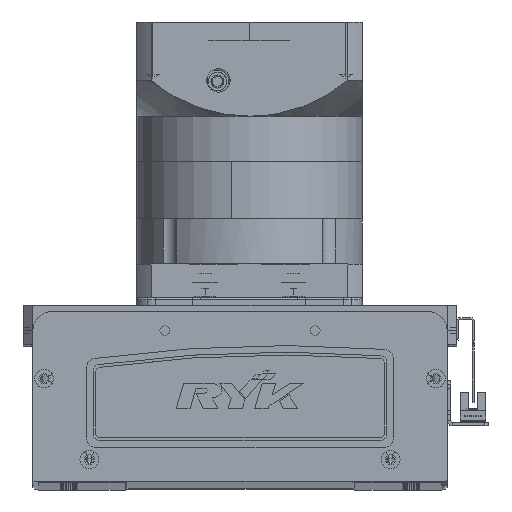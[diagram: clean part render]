
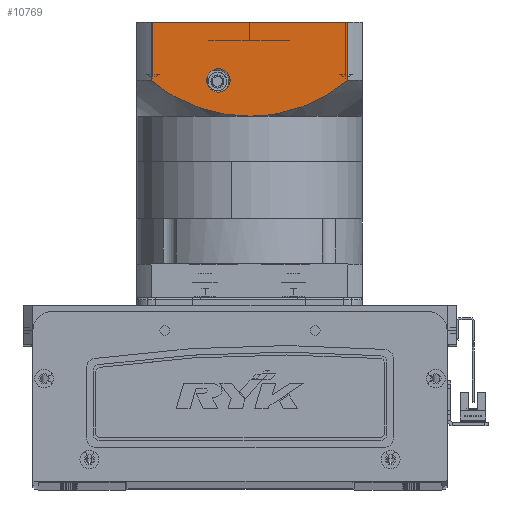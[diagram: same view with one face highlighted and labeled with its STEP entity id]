
A CAD part, top view. The second image highlights one B-rep face of the part: STEP entity #10769.
In plain terms, the highlighted planar face has unit normal (0, 0, 1) as drawn and (0, -1, 0) by its records, which use the part's own axes.
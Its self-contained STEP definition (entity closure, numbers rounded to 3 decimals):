
#17 = EDGE_CURVE ( 'NONE', #12357, #54299, #51968, .T. ) ;
#294 = ORIENTED_EDGE ( 'NONE', *, *, #46916, .F. ) ;
#421 = CARTESIAN_POINT ( 'NONE',  ( -12.993, -60., -101.537 ) ) ;
#785 = CIRCLE ( 'NONE', #42281, 6.25 ) ;
#1253 = AXIS2_PLACEMENT_3D ( 'NONE', #51382, #25063, #24604 ) ;
#2251 = VERTEX_POINT ( 'NONE', #33631 ) ;
#3969 = CARTESIAN_POINT ( 'NONE',  ( 45.542, -60., -114.478 ) ) ;
#4119 = ORIENTED_EDGE ( 'NONE', *, *, #17, .F. ) ;
#4832 = CARTESIAN_POINT ( 'NONE',  ( -52.156, -60., -150.5 ) ) ;
#5142 = CARTESIAN_POINT ( 'NONE',  ( 0., -60., -100.5 ) ) ;
#8553 = EDGE_CURVE ( 'NONE', #37522, #54299, #38407, .T. ) ;
#8769 = CARTESIAN_POINT ( 'NONE',  ( 16.5, -60., -119.5 ) ) ;
#9068 = CARTESIAN_POINT ( 'NONE',  ( 0., -60., -100.5 ) ) ;
#9106 = CIRCLE ( 'NONE', #48575, 6.25 ) ;
#9754 = CARTESIAN_POINT ( 'NONE',  ( 32.196, -60., -107.007 ) ) ;
#10769 = ADVANCED_FACE ( 'NONE', ( #44859, #16577 ), #30703, .T. ) ;
#10804 = ORIENTED_EDGE ( 'NONE', *, *, #18647, .T. ) ;
#11791 = CARTESIAN_POINT ( 'NONE',  ( -38.51, -60., -110.207 ) ) ;
#12357 = VERTEX_POINT ( 'NONE', #5142 ) ;
#13219 = ORIENTED_EDGE ( 'NONE', *, *, #18970, .T. ) ;
#13637 = DIRECTION ( 'NONE',  ( 0., 1., 0. ) ) ;
#13999 = CARTESIAN_POINT ( 'NONE',  ( 52.156, -60., -150.5 ) ) ;
#14232 = CARTESIAN_POINT ( 'NONE',  ( 50.338, -60., -117.969 ) ) ;
#14457 = CARTESIAN_POINT ( 'NONE',  ( 9.454, -60., -100.914 ) ) ;
#14670 = EDGE_LOOP ( 'NONE', ( #10804, #38594 ) ) ;
#15160 = CARTESIAN_POINT ( 'NONE',  ( 15.267, -60., -101.938 ) ) ;
#16577 = FACE_BOUND ( 'NONE', #14670, .T. ) ;
#16679 = CARTESIAN_POINT ( 'NONE',  ( -29.939, -60., -106.183 ) ) ;
#16916 = CARTESIAN_POINT ( 'NONE',  ( -39.546, -60., -110.776 ) ) ;
#18021 = DIRECTION ( 'NONE',  ( 0., 0., 1. ) ) ;
#18647 = EDGE_CURVE ( 'NONE', #19310, #2251, #785, .T. ) ;
#18970 = EDGE_CURVE ( 'NONE', #30641, #37522, #30756, .T. ) ;
#19310 = VERTEX_POINT ( 'NONE', #64520 ) ;
#19798 = CARTESIAN_POINT ( 'NONE',  ( 36.444, -60., -108.986 ) ) ;
#23198 = ORIENTED_EDGE ( 'NONE', *, *, #37019, .F. ) ;
#24364 = VECTOR ( 'NONE', #18021, 1000. ) ;
#24533 = EDGE_LOOP ( 'NONE', ( #23198, #13219, #40753, #4119, #294 ) ) ;
#24604 = DIRECTION ( 'NONE',  ( 1., 0., 0. ) ) ;
#25063 = DIRECTION ( 'NONE',  ( 0., -1., 0. ) ) ;
#25149 = CARTESIAN_POINT ( 'NONE',  ( 52.156, -60., -119.5 ) ) ;
#27271 = CARTESIAN_POINT ( 'NONE',  ( -52.156, -60., -119.5 ) ) ;
#27407 = CARTESIAN_POINT ( 'NONE',  ( -8.294, -60., -100.916 ) ) ;
#27662 = CARTESIAN_POINT ( 'NONE',  ( -2.376, -60., -100.5 ) ) ;
#27898 = CARTESIAN_POINT ( 'NONE',  ( -35.342, -60., -108.587 ) ) ;
#30239 = LINE ( 'NONE', #50578, #24364 ) ;
#30641 = VERTEX_POINT ( 'NONE', #4832 ) ;
#30703 = PLANE ( 'NONE',  #1253 ) ;
#30756 = LINE ( 'NONE', #44099, #47373 ) ;
#31263 = CARTESIAN_POINT ( 'NONE',  ( 18.739, -60., -102.681 ) ) ;
#31434 = CARTESIAN_POINT ( 'NONE',  ( -52.156, -60., -119.5 ) ) ;
#32318 = CARTESIAN_POINT ( 'NONE',  ( -23.319, -60., -103.777 ) ) ;
#33248 = CARTESIAN_POINT ( 'NONE',  ( 0., -60., -100.5 ) ) ;
#33631 = CARTESIAN_POINT ( 'NONE',  ( 16.5, -60., -113.25 ) ) ;
#35901 = CARTESIAN_POINT ( 'NONE',  ( 19.894, -60., -102.964 ) ) ;
#36129 = CARTESIAN_POINT ( 'NONE',  ( 25.577, -60., -104.596 ) ) ;
#36363 = CARTESIAN_POINT ( 'NONE',  ( 41.545, -60., -111.931 ) ) ;
#37019 = EDGE_CURVE ( 'NONE', #30641, #38735, #30239, .T. ) ;
#37028 = CARTESIAN_POINT ( 'NONE',  ( -48.52, -60., -116.438 ) ) ;
#37522 = VERTEX_POINT ( 'NONE', #39707 ) ;
#37710 = CARTESIAN_POINT ( 'NONE',  ( -36.409, -60., -109.113 ) ) ;
#38407 = LINE ( 'NONE', #13999, #41730 ) ;
#38594 = ORIENTED_EDGE ( 'NONE', *, *, #39513, .T. ) ;
#38735 = VERTEX_POINT ( 'NONE', #27271 ) ;
#39513 = EDGE_CURVE ( 'NONE', #2251, #19310, #9106, .T. ) ;
#39707 = CARTESIAN_POINT ( 'NONE',  ( 52.156, -60., -150.5 ) ) ;
#40753 = ORIENTED_EDGE ( 'NONE', *, *, #8553, .T. ) ;
#41708 = CARTESIAN_POINT ( 'NONE',  ( 23.329, -60., -103.886 ) ) ;
#41730 = VECTOR ( 'NONE', #51240, 1000. ) ;
#42281 = AXIS2_PLACEMENT_3D ( 'NONE', #8769, #67471, #46936 ) ;
#43459 = CARTESIAN_POINT ( 'NONE',  ( -32.118, -60., -107.084 ) ) ;
#43895 = CARTESIAN_POINT ( 'NONE',  ( -18.792, -60., -102.562 ) ) ;
#44099 = CARTESIAN_POINT ( 'NONE',  ( -60., -60., -150.5 ) ) ;
#44859 = FACE_OUTER_BOUND ( 'NONE', #24533, .T. ) ;
#45481 = CARTESIAN_POINT ( 'NONE',  ( 16.5, -60., -119.5 ) ) ;
#46066 = CARTESIAN_POINT ( 'NONE',  ( 48.457, -60., -116.522 ) ) ;
#46763 = CARTESIAN_POINT ( 'NONE',  ( 44.553, -60., -113.817 ) ) ;
#46916 = EDGE_CURVE ( 'NONE', #38735, #12357, #57332, .T. ) ;
#46936 = DIRECTION ( 'NONE',  ( 0., 0., -1. ) ) ;
#47373 = VECTOR ( 'NONE', #50141, 1000. ) ;
#48575 = AXIS2_PLACEMENT_3D ( 'NONE', #45481, #13637, #50871 ) ;
#48775 = CARTESIAN_POINT ( 'NONE',  ( -11.825, -60., -101.356 ) ) ;
#49004 = CARTESIAN_POINT ( 'NONE',  ( -4.747, -60., -100.604 ) ) ;
#50141 = DIRECTION ( 'NONE',  ( 1., 0., 0. ) ) ;
#50578 = CARTESIAN_POINT ( 'NONE',  ( -52.156, -60., -97.5 ) ) ;
#50871 = DIRECTION ( 'NONE',  ( 0., 0., -1. ) ) ;
#51240 = DIRECTION ( 'NONE',  ( 0., 0., 1. ) ) ;
#51382 = CARTESIAN_POINT ( 'NONE',  ( -60., -60., -150.5 ) ) ;
#51462 = CARTESIAN_POINT ( 'NONE',  ( 16.426, -60., -102.169 ) ) ;
#51968 = B_SPLINE_CURVE_WITH_KNOTS ( 'NONE', 3,
 ( #9068, #67773, #14457, #15160, #51462, #31263, #35901, #41708, #36129, #9754, #19798, #36363, #62629, #46763, #3969, #46066, #14232, #25149 ),
 .UNSPECIFIED., .F., .F.,
 ( 4, 2, 2, 2, 2, 2, 2, 2, 4 ),
 ( 0., 0.014, 0.018, 0.021, 0.028, 0.042, 0.046, 0.05, 0.057 ),
 .UNSPECIFIED. ) ;
#54299 = VERTEX_POINT ( 'NONE', #55322 ) ;
#55322 = CARTESIAN_POINT ( 'NONE',  ( 52.156, -60., -119.5 ) ) ;
#57332 = B_SPLINE_CURVE_WITH_KNOTS ( 'NONE', 3,
 ( #31434, #37028, #59537, #16916, #11791, #37710, #27898, #43459, #16679, #32318, #43895, #421, #48775, #65091, #27407, #49004, #27662, #33248 ),
 .UNSPECIFIED., .F., .F.,
 ( 4, 2, 2, 2, 2, 2, 2, 2, 4 ),
 ( 0., 0.014, 0.018, 0.021, 0.028, 0.042, 0.046, 0.05, 0.057 ),
 .UNSPECIFIED. ) ;
#59537 = CARTESIAN_POINT ( 'NONE',  ( -44.656, -60., -113.73 ) ) ;
#62629 = CARTESIAN_POINT ( 'NONE',  ( 42.555, -60., -112.543 ) ) ;
#64520 = CARTESIAN_POINT ( 'NONE',  ( 16.5, -60., -125.75 ) ) ;
#65091 = CARTESIAN_POINT ( 'NONE',  ( -9.477, -60., -101.046 ) ) ;
#67471 = DIRECTION ( 'NONE',  ( 0., 1., 0. ) ) ;
#67773 = CARTESIAN_POINT ( 'NONE',  ( 4.753, -60., -100.5 ) ) ;
